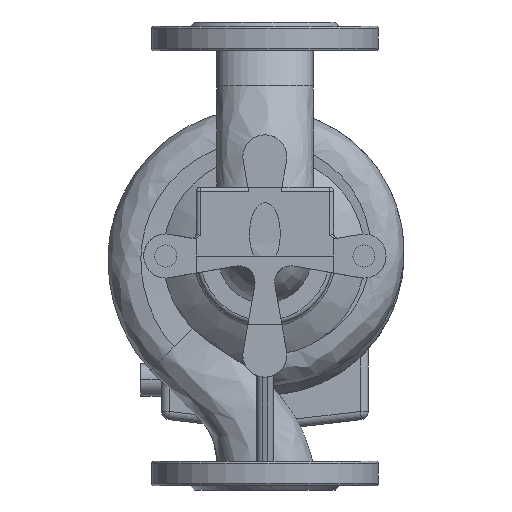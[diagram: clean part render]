
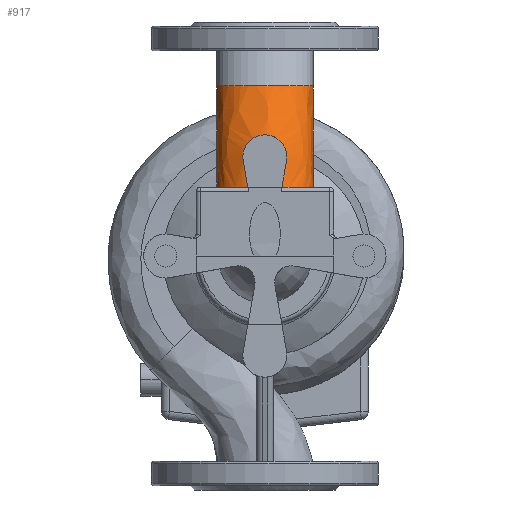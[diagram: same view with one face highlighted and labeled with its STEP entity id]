
A CAD part, front view. The second image highlights one B-rep face of the part: STEP entity #917.
In plain terms, the highlighted free-form (B-spline) face has degree [3, 3] with [7, 4] control points.
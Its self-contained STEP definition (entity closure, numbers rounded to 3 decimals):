
#162=(
BOUNDED_SURFACE()
B_SPLINE_SURFACE(3,3,((#25634,#25635,#25636,#25637),(#25638,#25639,#25640,
#25641),(#25642,#25643,#25644,#25645),(#25646,#25647,#25648,#25649),(#25650,
#25651,#25652,#25653),(#25654,#25655,#25656,#25657),(#25658,#25659,#25660,
#25661)),.UNSPECIFIED.,.T.,.F.,.F.)
B_SPLINE_SURFACE_WITH_KNOTS((1,3,3,3,1),(4,4),(-0.5,0.,0.5,1.,1.5),(0.,
1.),.UNSPECIFIED.)
GEOMETRIC_REPRESENTATION_ITEM()
RATIONAL_B_SPLINE_SURFACE(((1.,0.949,0.949,1.),
(0.333,0.316,0.316,0.333),
(0.333,0.316,0.316,0.333),
(1.,0.949,0.949,1.),(0.333,0.316,
0.316,0.333),(0.333,0.316,
0.316,0.333),(1.,0.949,0.949,
1.)))
REPRESENTATION_ITEM('')
SURFACE()
);
#193=(
BOUNDED_CURVE()
B_SPLINE_CURVE(3,(#25572,#25573,#25574,#25575),.UNSPECIFIED.,.F.,.F.)
B_SPLINE_CURVE_WITH_KNOTS((4,4),(0.,1.),.UNSPECIFIED.)
CURVE()
GEOMETRIC_REPRESENTATION_ITEM()
RATIONAL_B_SPLINE_CURVE((0.962,0.964,0.977,
1.))
REPRESENTATION_ITEM('')
);
#194=(
BOUNDED_CURVE()
B_SPLINE_CURVE(3,(#25579,#25580,#25581,#25582),.UNSPECIFIED.,.F.,.F.)
B_SPLINE_CURVE_WITH_KNOTS((4,4),(0.,1.),.UNSPECIFIED.)
CURVE()
GEOMETRIC_REPRESENTATION_ITEM()
RATIONAL_B_SPLINE_CURVE((0.962,0.964,0.977,
1.))
REPRESENTATION_ITEM('')
);
#917=ADVANCED_FACE('',(#2391),#162,.F.);
#2391=FACE_OUTER_BOUND('',#3343,.T.);
#3343=EDGE_LOOP('',(#7298,#7299,#7300,#7301,#7302,#7303,#7304,#7305,#7306,
#7307));
#4473=B_SPLINE_CURVE_WITH_KNOTS('',3,(#25586,#25587,#25588,#25589,#25590,
#25591,#25592,#25593),.UNSPECIFIED.,.F.,.F.,(4,2,2,4),(0.,0.5,
0.75,1.),.UNSPECIFIED.);
#4474=B_SPLINE_CURVE_WITH_KNOTS('',3,(#25595,#25596,#25597,#25598),
 .UNSPECIFIED.,.F.,.F.,(4,4),(0.,1.),.UNSPECIFIED.);
#4475=B_SPLINE_CURVE_WITH_KNOTS('',3,(#25600,#25601,#25602,#25603,#25604,
#25605,#25606,#25607,#25608,#25609,#25610,#25611,#25612,#25613,#25614,#25615,
#25616,#25617),.UNSPECIFIED.,.F.,.F.,(4,2,2,2,2,2,2,2,4),(0.,0.125,0.25,
0.375,0.5,0.625,0.75,0.875,1.),.UNSPECIFIED.);
#4476=B_SPLINE_CURVE_WITH_KNOTS('',3,(#25619,#25620,#25621,#25622),
 .UNSPECIFIED.,.F.,.F.,(4,4),(0.,1.),.UNSPECIFIED.);
#4477=B_SPLINE_CURVE_WITH_KNOTS('',3,(#25624,#25625,#25626,#25627,#25628,
#25629,#25630,#25631,#25632,#25633),.UNSPECIFIED.,.F.,.F.,(4,2,2,2,4),(0.,
0.25,0.5,0.75,1.),.UNSPECIFIED.);
#7298=ORIENTED_EDGE('',*,*,#14046,.T.);
#7299=ORIENTED_EDGE('',*,*,#14047,.T.);
#7300=ORIENTED_EDGE('',*,*,#14048,.T.);
#7301=ORIENTED_EDGE('',*,*,#14049,.F.);
#7302=ORIENTED_EDGE('',*,*,#14050,.F.);
#7303=ORIENTED_EDGE('',*,*,#14051,.T.);
#7304=ORIENTED_EDGE('',*,*,#14052,.T.);
#7305=ORIENTED_EDGE('',*,*,#14053,.T.);
#7306=ORIENTED_EDGE('',*,*,#14054,.T.);
#7307=ORIENTED_EDGE('',*,*,#14055,.T.);
#12395=VERTEX_POINT('',#25570);
#12396=VERTEX_POINT('',#25571);
#12397=VERTEX_POINT('',#25576);
#12398=VERTEX_POINT('',#25578);
#12399=VERTEX_POINT('',#25583);
#12400=VERTEX_POINT('',#25585);
#12401=VERTEX_POINT('',#25594);
#12402=VERTEX_POINT('',#25599);
#12403=VERTEX_POINT('',#25618);
#12404=VERTEX_POINT('',#25623);
#14046=EDGE_CURVE('',#12395,#12396,#16516,.T.);
#14047=EDGE_CURVE('',#12396,#12397,#193,.T.);
#14048=EDGE_CURVE('',#12397,#12398,#16517,.T.);
#14049=EDGE_CURVE('',#12399,#12398,#194,.T.);
#14050=EDGE_CURVE('',#12400,#12399,#16518,.T.);
#14051=EDGE_CURVE('',#12400,#12401,#4473,.T.);
#14052=EDGE_CURVE('',#12401,#12402,#4474,.T.);
#14053=EDGE_CURVE('',#12402,#12403,#4475,.T.);
#14054=EDGE_CURVE('',#12403,#12404,#4476,.T.);
#14055=EDGE_CURVE('',#12404,#12395,#4477,.T.);
#16516=CIRCLE('',#17600,152.095);
#16517=CIRCLE('',#17601,35.);
#16518=CIRCLE('',#17602,152.095);
#17600=AXIS2_PLACEMENT_3D('',#25569,#19809,#19810);
#17601=AXIS2_PLACEMENT_3D('',#25577,#19811,#19812);
#17602=AXIS2_PLACEMENT_3D('',#25584,#19813,#19814);
#19809=DIRECTION('',(-1.,0.,0.));
#19810=DIRECTION('',(0.,0.,1.));
#19811=DIRECTION('',(0.,0.,-1.));
#19812=DIRECTION('',(-1.,0.,0.));
#19813=DIRECTION('',(-1.,0.,0.));
#19814=DIRECTION('',(0.,0.,1.));
#25569=CARTESIAN_POINT('',(-89.719,632.054,-188.708));
#25570=CARTESIAN_POINT('',(-89.719,483.807,-154.708));
#25571=CARTESIAN_POINT('',(-89.719,493.62,-125.708));
#25572=CARTESIAN_POINT('',(-89.719,493.62,-125.708));
#25573=CARTESIAN_POINT('',(-89.719,501.234,-108.977));
#25574=CARTESIAN_POINT('',(-89.719,511.676,-93.991));
#25575=CARTESIAN_POINT('',(-89.719,524.506,-81.16));
#25576=CARTESIAN_POINT('',(-89.719,524.506,-81.16));
#25577=CARTESIAN_POINT('',(-124.719,524.506,-81.16));
#25578=CARTESIAN_POINT('',(-159.719,524.506,-81.16));
#25579=CARTESIAN_POINT('',(-159.719,493.62,-125.708));
#25580=CARTESIAN_POINT('',(-159.719,501.234,-108.977));
#25581=CARTESIAN_POINT('',(-159.719,511.676,-93.991));
#25582=CARTESIAN_POINT('',(-159.719,524.506,-81.16));
#25583=CARTESIAN_POINT('',(-159.719,493.62,-125.708));
#25584=CARTESIAN_POINT('',(-159.719,632.054,-188.708));
#25585=CARTESIAN_POINT('',(-159.719,483.807,-154.708));
#25586=CARTESIAN_POINT('',(-159.719,483.807,-154.708));
#25587=CARTESIAN_POINT('',(-159.719,477.7,-154.708));
#25588=CARTESIAN_POINT('',(-156.673,471.967,-154.708));
#25589=CARTESIAN_POINT('',(-150.373,465.539,-154.708));
#25590=CARTESIAN_POINT('',(-147.936,463.686,-154.708));
#25591=CARTESIAN_POINT('',(-142.742,460.658,-154.708));
#25592=CARTESIAN_POINT('',(-139.987,459.47,-154.708));
#25593=CARTESIAN_POINT('',(-137.086,458.584,-154.708));
#25594=CARTESIAN_POINT('',(-137.086,458.584,-154.708));
#25595=CARTESIAN_POINT('',(-137.086,458.584,-154.708));
#25596=CARTESIAN_POINT('',(-138.239,460.217,-148.172));
#25597=CARTESIAN_POINT('',(-139.369,462.263,-141.765));
#25598=CARTESIAN_POINT('',(-140.476,464.724,-135.486));
#25599=CARTESIAN_POINT('',(-140.476,464.724,-135.486));
#25600=CARTESIAN_POINT('',(-140.476,464.724,-135.486));
#25601=CARTESIAN_POINT('',(-140.862,465.582,-133.294));
#25602=CARTESIAN_POINT('',(-140.792,466.329,-131.007));
#25603=CARTESIAN_POINT('',(-139.67,467.473,-126.568));
#25604=CARTESIAN_POINT('',(-138.603,467.869,-124.419));
#25605=CARTESIAN_POINT('',(-135.647,468.374,-120.789));
#25606=CARTESIAN_POINT('',(-133.745,468.495,-119.285));
#25607=CARTESIAN_POINT('',(-129.461,468.629,-117.243));
#25608=CARTESIAN_POINT('',(-127.095,468.645,-116.709));
#25609=CARTESIAN_POINT('',(-122.361,468.645,-116.706));
#25610=CARTESIAN_POINT('',(-119.992,468.629,-117.242));
#25611=CARTESIAN_POINT('',(-115.738,468.497,-119.258));
#25612=CARTESIAN_POINT('',(-113.828,468.378,-120.752));
#25613=CARTESIAN_POINT('',(-110.844,467.873,-124.399));
#25614=CARTESIAN_POINT('',(-109.776,467.479,-126.544));
#25615=CARTESIAN_POINT('',(-108.644,466.331,-131.003));
#25616=CARTESIAN_POINT('',(-108.575,465.583,-133.293));
#25617=CARTESIAN_POINT('',(-108.962,464.724,-135.486));
#25618=CARTESIAN_POINT('',(-108.962,464.724,-135.486));
#25619=CARTESIAN_POINT('',(-108.962,464.724,-135.486));
#25620=CARTESIAN_POINT('',(-110.069,462.263,-141.765));
#25621=CARTESIAN_POINT('',(-111.199,460.217,-148.172));
#25622=CARTESIAN_POINT('',(-112.351,458.584,-154.708));
#25623=CARTESIAN_POINT('',(-112.351,458.584,-154.708));
#25624=CARTESIAN_POINT('',(-112.351,458.584,-154.708));
#25625=CARTESIAN_POINT('',(-109.45,459.47,-154.708));
#25626=CARTESIAN_POINT('',(-106.7,460.657,-154.708));
#25627=CARTESIAN_POINT('',(-101.523,463.672,-154.708));
#25628=CARTESIAN_POINT('',(-99.076,465.529,-154.708));
#25629=CARTESIAN_POINT('',(-94.871,469.816,-154.708));
#25630=CARTESIAN_POINT('',(-93.054,472.309,-154.708));
#25631=CARTESIAN_POINT('',(-90.488,477.751,-154.708));
#25632=CARTESIAN_POINT('',(-89.719,480.753,-154.708));
#25633=CARTESIAN_POINT('',(-89.719,483.807,-154.708));
#25634=CARTESIAN_POINT('',(-159.719,479.959,-188.708));
#25635=CARTESIAN_POINT('',(-159.719,479.959,-147.83));
#25636=CARTESIAN_POINT('',(-159.719,495.602,-110.065));
#25637=CARTESIAN_POINT('',(-159.719,524.506,-81.16));
#25638=CARTESIAN_POINT('',(-159.719,529.456,-139.21));
#25639=CARTESIAN_POINT('',(-159.719,542.759,-111.636));
#25640=CARTESIAN_POINT('',(-159.719,565.602,-91.251));
#25641=CARTESIAN_POINT('',(-159.719,594.506,-81.16));
#25642=CARTESIAN_POINT('',(-89.719,529.456,-139.21));
#25643=CARTESIAN_POINT('',(-89.719,542.759,-111.636));
#25644=CARTESIAN_POINT('',(-89.719,565.602,-91.251));
#25645=CARTESIAN_POINT('',(-89.719,594.506,-81.16));
#25646=CARTESIAN_POINT('',(-89.719,479.959,-188.708));
#25647=CARTESIAN_POINT('',(-89.719,479.959,-147.83));
#25648=CARTESIAN_POINT('',(-89.719,495.602,-110.065));
#25649=CARTESIAN_POINT('',(-89.719,524.506,-81.16));
#25650=CARTESIAN_POINT('',(-89.719,430.461,-238.205));
#25651=CARTESIAN_POINT('',(-89.719,417.158,-184.025));
#25652=CARTESIAN_POINT('',(-89.719,425.602,-128.878));
#25653=CARTESIAN_POINT('',(-89.719,454.506,-81.16));
#25654=CARTESIAN_POINT('',(-159.719,430.461,-238.205));
#25655=CARTESIAN_POINT('',(-159.719,417.158,-184.025));
#25656=CARTESIAN_POINT('',(-159.719,425.602,-128.878));
#25657=CARTESIAN_POINT('',(-159.719,454.506,-81.16));
#25658=CARTESIAN_POINT('',(-159.719,479.959,-188.708));
#25659=CARTESIAN_POINT('',(-159.719,479.959,-147.83));
#25660=CARTESIAN_POINT('',(-159.719,495.602,-110.065));
#25661=CARTESIAN_POINT('',(-159.719,524.506,-81.16));
